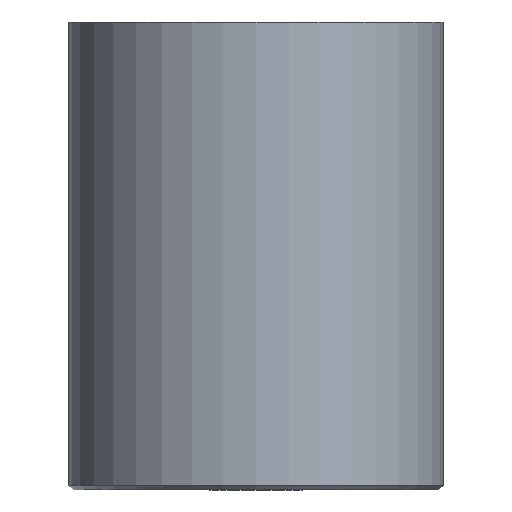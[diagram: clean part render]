
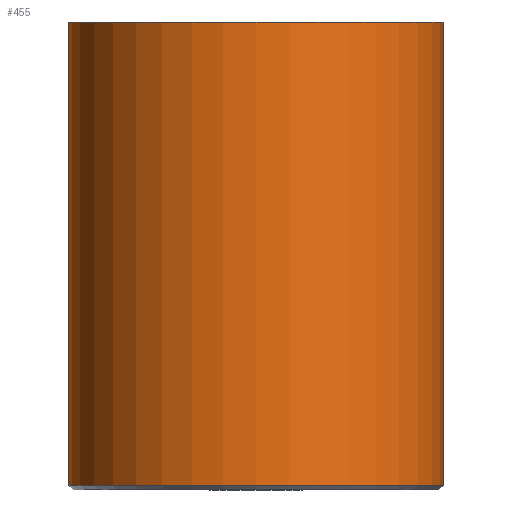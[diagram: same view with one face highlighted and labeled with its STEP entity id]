
A CAD part, front view. The second image highlights one B-rep face of the part: STEP entity #455.
In plain terms, the highlighted cylindrical face has radius 8 mm (diameter 16 mm), a partial arc.
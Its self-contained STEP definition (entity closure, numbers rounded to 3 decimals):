
#29 = EDGE_CURVE ( 'NONE', #681, #74, #355, .T. ) ;
#38 = EDGE_CURVE ( 'NONE', #316, #74, #789, .T. ) ;
#74 = VERTEX_POINT ( 'NONE', #364 ) ;
#107 = EDGE_LOOP ( 'NONE', ( #252, #770, #587, #248 ) ) ;
#140 = CARTESIAN_POINT ( 'NONE',  ( 0., 0., 0. ) ) ;
#211 = EDGE_CURVE ( 'NONE', #481, #681, #693, .T. ) ;
#239 = VECTOR ( 'NONE', #611, 1000. ) ;
#241 = CARTESIAN_POINT ( 'NONE',  ( 8., 0., -19.8 ) ) ;
#248 = ORIENTED_EDGE ( 'NONE', *, *, #38, .F. ) ;
#252 = ORIENTED_EDGE ( 'NONE', *, *, #348, .F. ) ;
#267 = DIRECTION ( 'NONE',  ( 0., 0., 1. ) ) ;
#316 = VERTEX_POINT ( 'NONE', #689 ) ;
#348 = EDGE_CURVE ( 'NONE', #481, #316, #627, .T. ) ;
#355 = LINE ( 'NONE', #783, #239 ) ;
#364 = CARTESIAN_POINT ( 'NONE',  ( 8., 0., 0. ) ) ;
#365 = AXIS2_PLACEMENT_3D ( 'NONE', #458, #742, #401 ) ;
#369 = CARTESIAN_POINT ( 'NONE',  ( -8., 0., 1. ) ) ;
#387 = DIRECTION ( 'NONE',  ( 1., 0., 0. ) ) ;
#393 = CARTESIAN_POINT ( 'NONE',  ( -8., 0., -19.8 ) ) ;
#401 = DIRECTION ( 'NONE',  ( 1., 0., 0. ) ) ;
#455 = ADVANCED_FACE ( 'NONE', ( #642 ), #601, .T. ) ;
#458 = CARTESIAN_POINT ( 'NONE',  ( 0., 0., 1. ) ) ;
#473 = DIRECTION ( 'NONE',  ( 1., 0., 0. ) ) ;
#478 = DIRECTION ( 'NONE',  ( 0., 0., 1. ) ) ;
#481 = VERTEX_POINT ( 'NONE', #393 ) ;
#489 = AXIS2_PLACEMENT_3D ( 'NONE', #592, #267, #473 ) ;
#510 = VECTOR ( 'NONE', #576, 1000. ) ;
#576 = DIRECTION ( 'NONE',  ( 0., 0., 1. ) ) ;
#587 = ORIENTED_EDGE ( 'NONE', *, *, #29, .T. ) ;
#592 = CARTESIAN_POINT ( 'NONE',  ( 0., 0., -19.8 ) ) ;
#601 = CYLINDRICAL_SURFACE ( 'NONE', #365, 8. ) ;
#611 = DIRECTION ( 'NONE',  ( 0., 0., 1. ) ) ;
#627 = LINE ( 'NONE', #369, #510 ) ;
#642 = FACE_OUTER_BOUND ( 'NONE', #107, .T. ) ;
#681 = VERTEX_POINT ( 'NONE', #241 ) ;
#689 = CARTESIAN_POINT ( 'NONE',  ( -8., 0., 0. ) ) ;
#691 = AXIS2_PLACEMENT_3D ( 'NONE', #140, #478, #387 ) ;
#693 = CIRCLE ( 'NONE', #489, 8. ) ;
#742 = DIRECTION ( 'NONE',  ( 0., 0., 1. ) ) ;
#770 = ORIENTED_EDGE ( 'NONE', *, *, #211, .T. ) ;
#783 = CARTESIAN_POINT ( 'NONE',  ( 8., 0., 1. ) ) ;
#789 = CIRCLE ( 'NONE', #691, 8. ) ;
